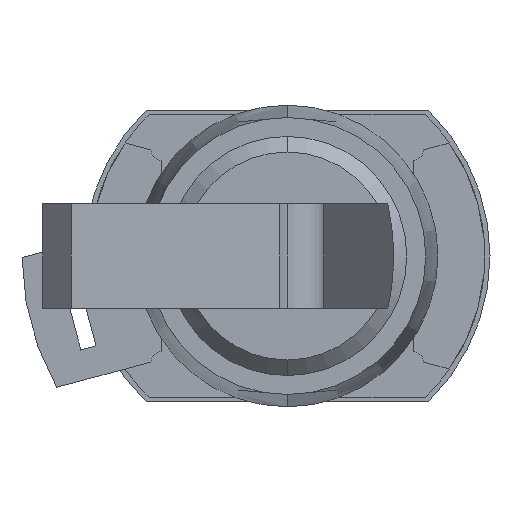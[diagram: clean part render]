
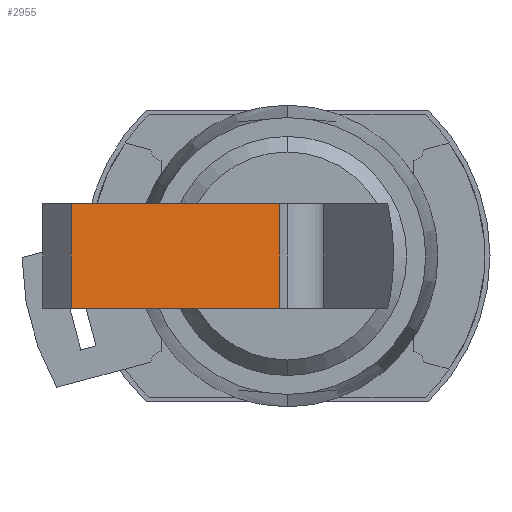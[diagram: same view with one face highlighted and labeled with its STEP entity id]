
A CAD part, left-side view. The second image highlights one B-rep face of the part: STEP entity #2955.
In plain terms, the highlighted planar face has unit normal (-0.729, -0.685, 0).
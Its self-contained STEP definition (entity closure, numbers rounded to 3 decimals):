
#897 = LINE ( 'NONE', #898, #899 ) ;
#898 = CARTESIAN_POINT ( 'NONE',  ( 2.175, 0.723, 0. ) ) ;
#899 = VECTOR ( 'NONE', #900, 1000. ) ;
#900 = DIRECTION ( 'NONE',  ( 0., 0., -1. ) ) ;
#970 = CARTESIAN_POINT ( 'NONE',  ( -1.5, 4.633, -5. ) ) ;
#975 = CARTESIAN_POINT ( 'NONE',  ( 2.175, 0.723, 5. ) ) ;
#2250 = EDGE_LOOP ( 'NONE', ( #3643, #7047, #5385, #4619, #3998, #4634 ) ) ;
#2955 = ADVANCED_FACE ( 'NONE', ( #7244 ), #7245, .T. ) ;
#3643 = ORIENTED_EDGE ( 'NONE', *, *, #3713, .F. ) ;
#3713 = EDGE_CURVE ( 'NONE', #3776, #6585, #7936, .T. ) ;
#3776 = VERTEX_POINT ( 'NONE', #8055 ) ;
#3998 = ORIENTED_EDGE ( 'NONE', *, *, #4098, .F. ) ;
#4098 = EDGE_CURVE ( 'NONE', #4137, #4593, #8900, .T. ) ;
#4137 = VERTEX_POINT ( 'NONE', #8988 ) ;
#4539 = EDGE_CURVE ( 'NONE', #4593, #5482, #9957, .T. ) ;
#4593 = VERTEX_POINT ( 'NONE', #10046 ) ;
#4619 = ORIENTED_EDGE ( 'NONE', *, *, #4539, .F. ) ;
#4634 = ORIENTED_EDGE ( 'NONE', *, *, #4682, .T. ) ;
#4682 = EDGE_CURVE ( 'NONE', #4137, #6585, #10235, .T. ) ;
#5385 = ORIENTED_EDGE ( 'NONE', *, *, #5445, .T. ) ;
#5445 = EDGE_CURVE ( 'NONE', #6604, #5482, #12555, .T. ) ;
#5482 = VERTEX_POINT ( 'NONE', #12662 ) ;
#6361 = EDGE_CURVE ( 'NONE', #6604, #3776, #897, .T. ) ;
#6585 = VERTEX_POINT ( 'NONE', #970 ) ;
#6604 = VERTEX_POINT ( 'NONE', #975 ) ;
#7047 = ORIENTED_EDGE ( 'NONE', *, *, #6361, .F. ) ;
#7244 = FACE_OUTER_BOUND ( 'NONE', #2250, .T. ) ;
#7245 = PLANE ( 'NONE',  #7248 ) ;
#7248 = AXIS2_PLACEMENT_3D ( 'NONE', #7249, #7250, #7251 ) ;
#7249 = CARTESIAN_POINT ( 'NONE',  ( 2.175, 0.723, 0. ) ) ;
#7250 = DIRECTION ( 'NONE',  ( -0.729, -0.685, 0. ) ) ;
#7251 = DIRECTION ( 'NONE',  ( 0.685, -0.729, 0. ) ) ;
#7936 = LINE ( 'NONE', #7937, #7938 ) ;
#7937 = CARTESIAN_POINT ( 'NONE',  ( 2.175, 0.723, -5. ) ) ;
#7938 = VECTOR ( 'NONE', #7939, 1000. ) ;
#7939 = DIRECTION ( 'NONE',  ( -0.685, 0.729, 0. ) ) ;
#8055 = CARTESIAN_POINT ( 'NONE',  ( 2.175, 0.723, -5. ) ) ;
#8900 = LINE ( 'NONE', #8901, #8902 ) ;
#8901 = CARTESIAN_POINT ( 'NONE',  ( -16.659, 20.76, 0. ) ) ;
#8902 = VECTOR ( 'NONE', #8903, 1000. ) ;
#8903 = DIRECTION ( 'NONE',  ( 0., 0., 1. ) ) ;
#8988 = CARTESIAN_POINT ( 'NONE',  ( -16.659, 20.76, -5. ) ) ;
#9957 = LINE ( 'NONE', #9958, #9959 ) ;
#9958 = CARTESIAN_POINT ( 'NONE',  ( -16.659, 20.76, 5. ) ) ;
#9959 = VECTOR ( 'NONE', #9960, 1000. ) ;
#9960 = DIRECTION ( 'NONE',  ( 0.685, -0.729, 0. ) ) ;
#10046 = CARTESIAN_POINT ( 'NONE',  ( -16.659, 20.76, 5. ) ) ;
#10235 = LINE ( 'NONE', #10236, #10237 ) ;
#10236 = CARTESIAN_POINT ( 'NONE',  ( -16.659, 20.76, -5. ) ) ;
#10237 = VECTOR ( 'NONE', #10238, 1000. ) ;
#10238 = DIRECTION ( 'NONE',  ( 0.685, -0.729, 0. ) ) ;
#12555 = LINE ( 'NONE', #12556, #12557 ) ;
#12556 = CARTESIAN_POINT ( 'NONE',  ( 2.175, 0.723, 5. ) ) ;
#12557 = VECTOR ( 'NONE', #12558, 1000. ) ;
#12558 = DIRECTION ( 'NONE',  ( -0.685, 0.729, 0. ) ) ;
#12662 = CARTESIAN_POINT ( 'NONE',  ( -1.5, 4.633, 5. ) ) ;
